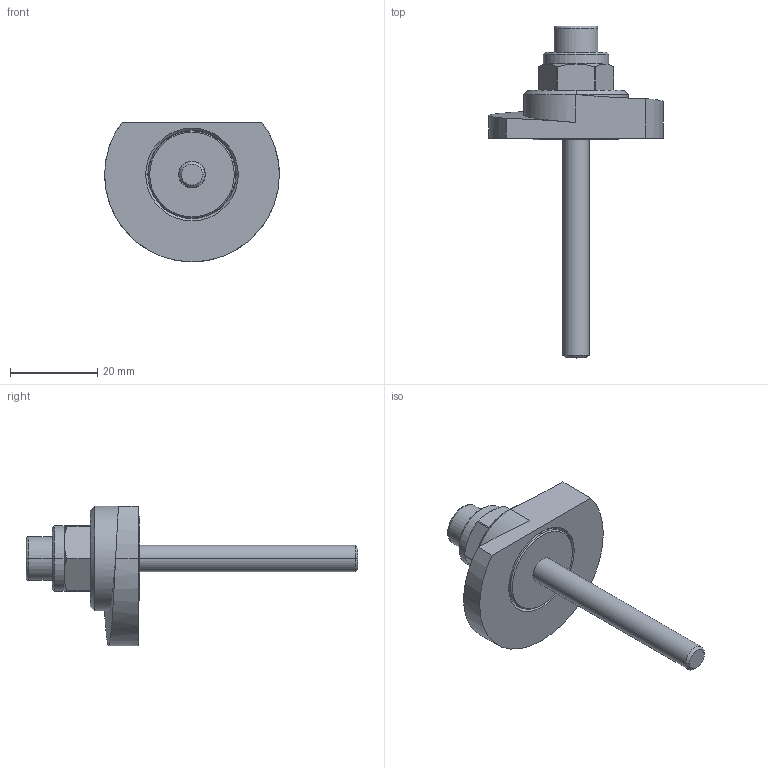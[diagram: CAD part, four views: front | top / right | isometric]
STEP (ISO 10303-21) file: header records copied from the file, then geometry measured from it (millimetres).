
FILE_DESCRIPTION (( 'STEP AP214' ), '1' );
FILE_NAME ('918.1-40-SKS-L-50.step', '2024-05-15T13:00:54', ( '' ), ( '' ), 'SwSTEP 2.0', 'SolidWorks 2022', '' );
FILE_SCHEMA (( 'AUTOMOTIVE_DESIGN' ));
Length unit declared in the file: millimetre
Products named in the file (1): 918.1-40-SKS-L-50
Bounding box: 40 x 76 x 32 mm (x, y, z)
Volume: 12363.7 mm3; surface area: 7150.9 mm2
Topology: 1 solids, 2 shells, 80 faces, 179 edges, 112 vertices
Faces by surface type: cylinder 27, plane 26, cone 22, bspline 3, torus 2
Entity records: 2599 total; most frequent: CARTESIAN_POINT 777, DIRECTION 390, ORIENTED_EDGE 358, EDGE_CURVE 179, AXIS2_PLACEMENT_3D 157, VERTEX_POINT 112, EDGE_LOOP 91, FACE_OUTER_BOUND 80
